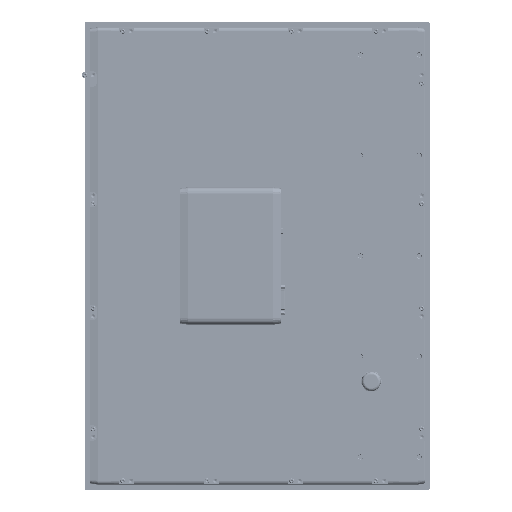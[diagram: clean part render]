
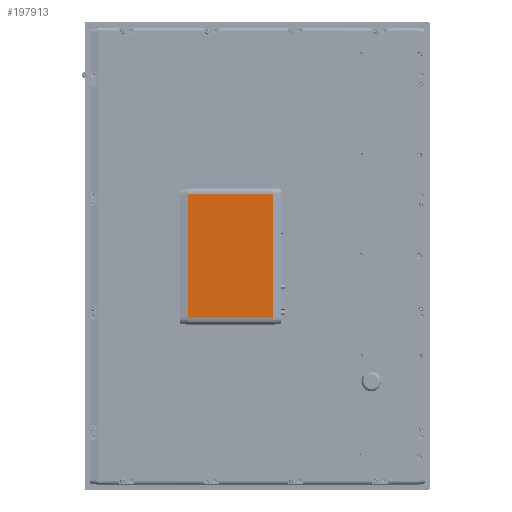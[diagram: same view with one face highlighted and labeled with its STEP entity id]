
A CAD part, left-side view. The second image highlights one B-rep face of the part: STEP entity #197913.
In plain terms, the highlighted planar face has unit normal (-1, 0, 0).
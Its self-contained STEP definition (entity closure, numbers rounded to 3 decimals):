
#197721=CARTESIAN_POINT('',(268.601,11.489,-20.371));
#197722=VERTEX_POINT('',#197721);
#197753=CARTESIAN_POINT('',(268.601,11.489,-175.371));
#197754=VERTEX_POINT('',#197753);
#197761=CARTESIAN_POINT('',(268.601,11.489,-175.371));
#197762=DIRECTION('',(0.0,0.0,1.0));
#197763=VECTOR('',#197762,155.0);
#197764=LINE('',#197761,#197763);
#197765=EDGE_CURVE('',#197754,#197722,#197764,.T.);
#197870=CARTESIAN_POINT('',(268.601,-94.57,-20.371));
#197871=VERTEX_POINT('',#197870);
#197881=CARTESIAN_POINT('',(268.601,11.489,-20.371));
#197882=DIRECTION('',(0.0,-1.0,0.0));
#197883=VECTOR('',#197882,106.059);
#197884=LINE('',#197881,#197883);
#197885=EDGE_CURVE('',#197722,#197871,#197884,.T.);
#197890=CARTESIAN_POINT('',(268.601,20.959,-20.371));
#197891=DIRECTION('',(-1.0,0.0,0.0));
#197892=DIRECTION('',(0.0,0.0,-1.0));
#197893=AXIS2_PLACEMENT_3D('',#197890,#197891,#197892);
#197894=PLANE('',#197893);
#197895=CARTESIAN_POINT('',(268.601,-94.57,-175.371));
#197896=VERTEX_POINT('',#197895);
#197897=CARTESIAN_POINT('',(268.601,-94.57,-20.371));
#197898=DIRECTION('',(0.0,0.0,-1.0));
#197899=VECTOR('',#197898,155.);
#197900=LINE('',#197897,#197899);
#197901=EDGE_CURVE('',#197871,#197896,#197900,.T.);
#197902=ORIENTED_EDGE('',*,*,#197901,.F.);
#197903=ORIENTED_EDGE('',*,*,#197885,.F.);
#197904=ORIENTED_EDGE('',*,*,#197765,.F.);
#197905=CARTESIAN_POINT('',(268.601,11.489,-175.371));
#197906=DIRECTION('',(0.0,-1.0,0.0));
#197907=VECTOR('',#197906,106.059);
#197908=LINE('',#197905,#197907);
#197909=EDGE_CURVE('',#197754,#197896,#197908,.T.);
#197910=ORIENTED_EDGE('',*,*,#197909,.T.);
#197911=EDGE_LOOP('',(#197902,#197903,#197904,#197910));
#197912=FACE_OUTER_BOUND('',#197911,.T.);
#197913=ADVANCED_FACE('',(#197912),#197894,.T.);
